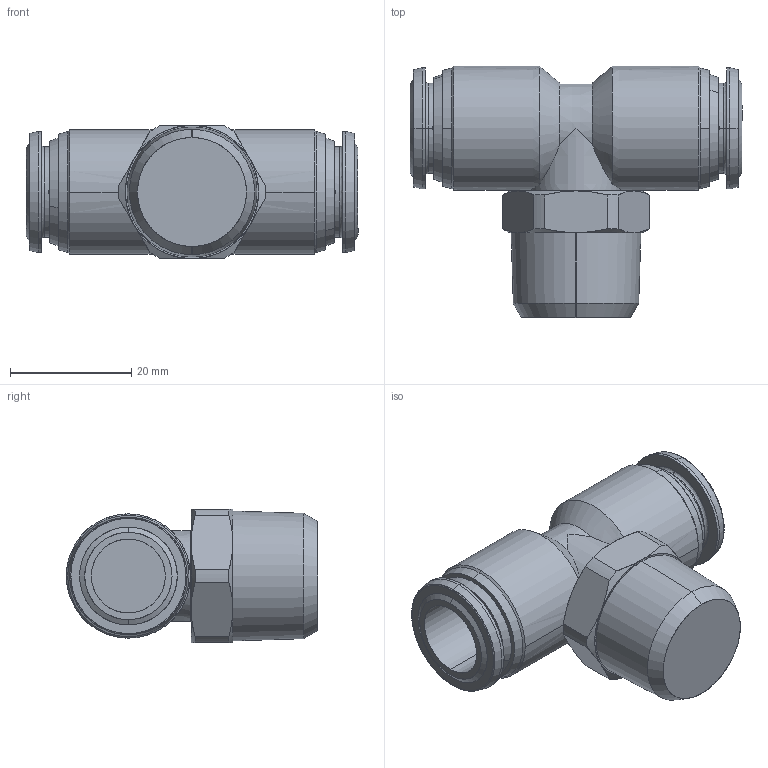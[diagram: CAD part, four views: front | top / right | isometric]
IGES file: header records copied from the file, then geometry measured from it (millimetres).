
Start section: SolidWorks IGES file using analytic representation for surfaces
Global section: file name: C:\Users\cad07\Desktop\60000X step\60210X\60210X0011.IGS; native system: SolidWorks 2016; preprocessor: SolidWorks 2016; author: cad07; date: 200806.153346; units: millimetre
Bounding box: 54.8 x 41.5 x 22 mm (x, y, z)
Surface area: 8323.7 mm2 (no closed solid volume)
Topology: 0 solids, 0 shells, 162 faces, 2036 edges, 2036 vertices
Faces by surface type: revolution 95, bspline 67
